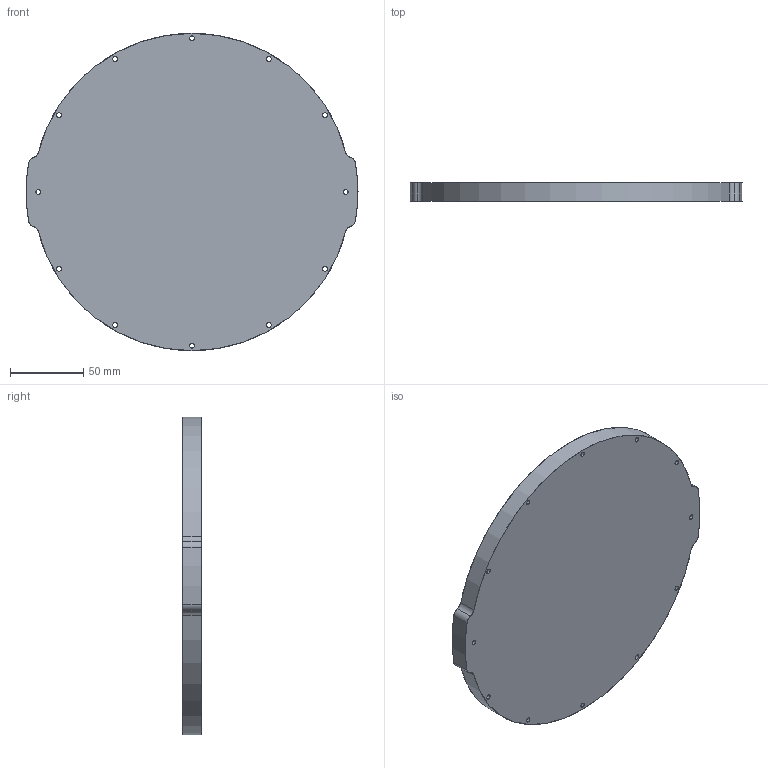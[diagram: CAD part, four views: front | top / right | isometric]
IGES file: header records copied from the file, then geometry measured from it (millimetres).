
Start section: SolidWorks IGES file using analytic representation for surfaces
Global section: file name: C:\Users\Jonathan\Dropbox\BR-Engineering\Models\WTE8-X1A-PUBLIC\WTE8-P-END-CAP-R1.IGS; native system: SolidWorks 2014; preprocessor: SolidWorks 2014; author: Jonathan; date: 170112.112837; units: millimetre
Bounding box: 225.9 x 12.7 x 215.9 mm (x, y, z)
Surface area: 84298.7 mm2 (no closed solid volume)
Topology: 0 solids, 0 shells, 39 faces, 740 edges, 740 vertices
Faces by surface type: revolution 37, bspline 2
